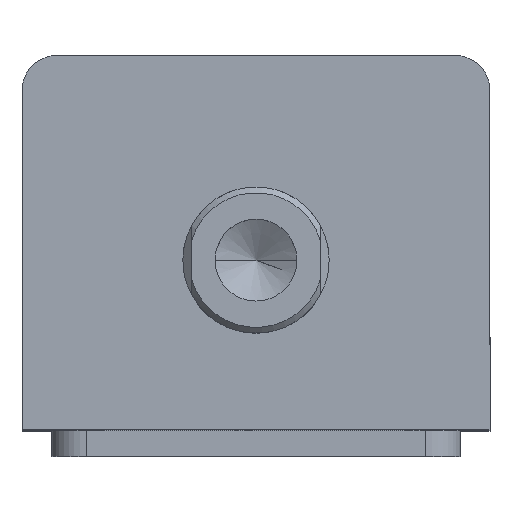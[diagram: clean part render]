
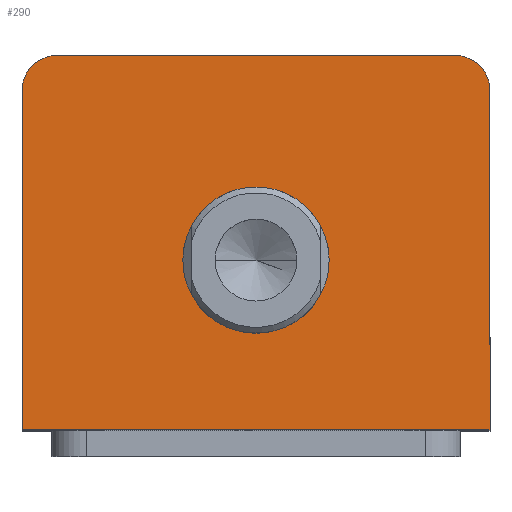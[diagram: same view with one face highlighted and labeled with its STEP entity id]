
A CAD part, top view. The second image highlights one B-rep face of the part: STEP entity #290.
In plain terms, the highlighted planar face has unit normal (0, 0, 1).
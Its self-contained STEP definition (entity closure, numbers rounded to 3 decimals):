
#39 = DIRECTION ( 'NONE',  ( 0., -1., 0. ) ) ;
#43 = CARTESIAN_POINT ( 'NONE',  ( -40., 32., 140. ) ) ;
#71 = DIRECTION ( 'NONE',  ( 1., 0., 0. ) ) ;
#78 = DIRECTION ( 'NONE',  ( 0., 0., 1. ) ) ;
#83 = CARTESIAN_POINT ( 'NONE',  ( -34., 26., 140. ) ) ;
#90 = DIRECTION ( 'NONE',  ( 1., 0., 0. ) ) ;
#91 = DIRECTION ( 'NONE',  ( 0., 0., 1. ) ) ;
#92 = CARTESIAN_POINT ( 'NONE',  ( 0., -3., 140. ) ) ;
#144 = EDGE_CURVE ( 'NONE', #1240, #1256, #1916, .T. ) ;
#159 = EDGE_CURVE ( 'NONE', #1256, #1267, #1949, .T. ) ;
#290 = ADVANCED_FACE ( 'NONE', ( #2082, #2085 ), #3457, .T. ) ;
#771 = DIRECTION ( 'NONE',  ( 0., 1., 0. ) ) ;
#772 = CARTESIAN_POINT ( 'NONE',  ( 40., 32., 140. ) ) ;
#800 = CARTESIAN_POINT ( 'NONE',  ( -40., -32., 140. ) ) ;
#802 = DIRECTION ( 'NONE',  ( 1., 0., 0. ) ) ;
#1081 = EDGE_LOOP ( 'NONE', ( #1730, #1731, #1732, #1733, #1734, #1735 ) ) ;
#1092 = EDGE_LOOP ( 'NONE', ( #1728, #1729 ) ) ;
#1158 = VERTEX_POINT ( 'NONE', #3022 ) ;
#1209 = VERTEX_POINT ( 'NONE', #2967 ) ;
#1222 = VERTEX_POINT ( 'NONE', #2954 ) ;
#1227 = VERTEX_POINT ( 'NONE', #2949 ) ;
#1238 = VERTEX_POINT ( 'NONE', #2937 ) ;
#1240 = VERTEX_POINT ( 'NONE', #2935 ) ;
#1256 = VERTEX_POINT ( 'NONE', #2913 ) ;
#1267 = VERTEX_POINT ( 'NONE', #2900 ) ;
#1329 = EDGE_CURVE ( 'NONE', #1227, #1238, #2311, .T. ) ;
#1338 = AXIS2_PLACEMENT_3D ( 'NONE', #3464, #3451, #3449 ) ;
#1432 = AXIS2_PLACEMENT_3D ( 'NONE', #2764, #2753, #2801 ) ;
#1450 = AXIS2_PLACEMENT_3D ( 'NONE', #2677, #2676, #2675 ) ;
#1459 = AXIS2_PLACEMENT_3D ( 'NONE', #83, #78, #71 ) ;
#1461 = AXIS2_PLACEMENT_3D ( 'NONE', #92, #91, #90 ) ;
#1728 = ORIENTED_EDGE ( 'NONE', *, *, #3290, .F. ) ;
#1729 = ORIENTED_EDGE ( 'NONE', *, *, #1329, .F. ) ;
#1730 = ORIENTED_EDGE ( 'NONE', *, *, #2823, .T. ) ;
#1731 = ORIENTED_EDGE ( 'NONE', *, *, #2853, .T. ) ;
#1732 = ORIENTED_EDGE ( 'NONE', *, *, #2857, .T. ) ;
#1733 = ORIENTED_EDGE ( 'NONE', *, *, #144, .T. ) ;
#1734 = ORIENTED_EDGE ( 'NONE', *, *, #159, .T. ) ;
#1735 = ORIENTED_EDGE ( 'NONE', *, *, #2844, .T. ) ;
#1916 = LINE ( 'NONE', #800, #1922 ) ;
#1922 = VECTOR ( 'NONE', #802, 1000. ) ;
#1949 = LINE ( 'NONE', #772, #1952 ) ;
#1952 = VECTOR ( 'NONE', #771, 1000. ) ;
#2082 = FACE_BOUND ( 'NONE', #1092, .T. ) ;
#2085 = FACE_OUTER_BOUND ( 'NONE', #1081, .T. ) ;
#2311 = CIRCLE ( 'NONE', #1432, 12.5 ) ;
#2352 = LINE ( 'NONE', #2730, #2355 ) ;
#2355 = VECTOR ( 'NONE', #2728, 1000. ) ;
#2368 = CIRCLE ( 'NONE', #1450, 6. ) ;
#2381 = CIRCLE ( 'NONE', #1459, 6. ) ;
#2387 = LINE ( 'NONE', #43, #2390 ) ;
#2390 = VECTOR ( 'NONE', #39, 1000. ) ;
#2413 = CIRCLE ( 'NONE', #1461, 12.5 ) ;
#2675 = DIRECTION ( 'NONE',  ( 1., 0., 0. ) ) ;
#2676 = DIRECTION ( 'NONE',  ( 0., 0., 1. ) ) ;
#2677 = CARTESIAN_POINT ( 'NONE',  ( 34., 26., 140. ) ) ;
#2728 = DIRECTION ( 'NONE',  ( -1., 0., 0. ) ) ;
#2730 = CARTESIAN_POINT ( 'NONE',  ( -40., 32., 140. ) ) ;
#2753 = DIRECTION ( 'NONE',  ( 0., 0., 1. ) ) ;
#2764 = CARTESIAN_POINT ( 'NONE',  ( 0., -3., 140. ) ) ;
#2801 = DIRECTION ( 'NONE',  ( 1., 0., 0. ) ) ;
#2823 = EDGE_CURVE ( 'NONE', #1158, #1222, #2352, .T. ) ;
#2844 = EDGE_CURVE ( 'NONE', #1267, #1158, #2368, .T. ) ;
#2853 = EDGE_CURVE ( 'NONE', #1222, #1209, #2381, .T. ) ;
#2857 = EDGE_CURVE ( 'NONE', #1209, #1240, #2387, .T. ) ;
#2900 = CARTESIAN_POINT ( 'NONE',  ( 40., 26., 140. ) ) ;
#2913 = CARTESIAN_POINT ( 'NONE',  ( 40., -32., 140. ) ) ;
#2935 = CARTESIAN_POINT ( 'NONE',  ( -40., -32., 140. ) ) ;
#2937 = CARTESIAN_POINT ( 'NONE',  ( 12.5, -3., 140. ) ) ;
#2949 = CARTESIAN_POINT ( 'NONE',  ( -12.5, -3., 140. ) ) ;
#2954 = CARTESIAN_POINT ( 'NONE',  ( -34., 32., 140. ) ) ;
#2967 = CARTESIAN_POINT ( 'NONE',  ( -40., 26., 140. ) ) ;
#3022 = CARTESIAN_POINT ( 'NONE',  ( 34., 32., 140. ) ) ;
#3290 = EDGE_CURVE ( 'NONE', #1238, #1227, #2413, .T. ) ;
#3449 = DIRECTION ( 'NONE',  ( 1., 0., 0. ) ) ;
#3451 = DIRECTION ( 'NONE',  ( 0., 0., 1. ) ) ;
#3457 = PLANE ( 'NONE',  #1338 ) ;
#3464 = CARTESIAN_POINT ( 'NONE',  ( 0., 0., 140. ) ) ;
